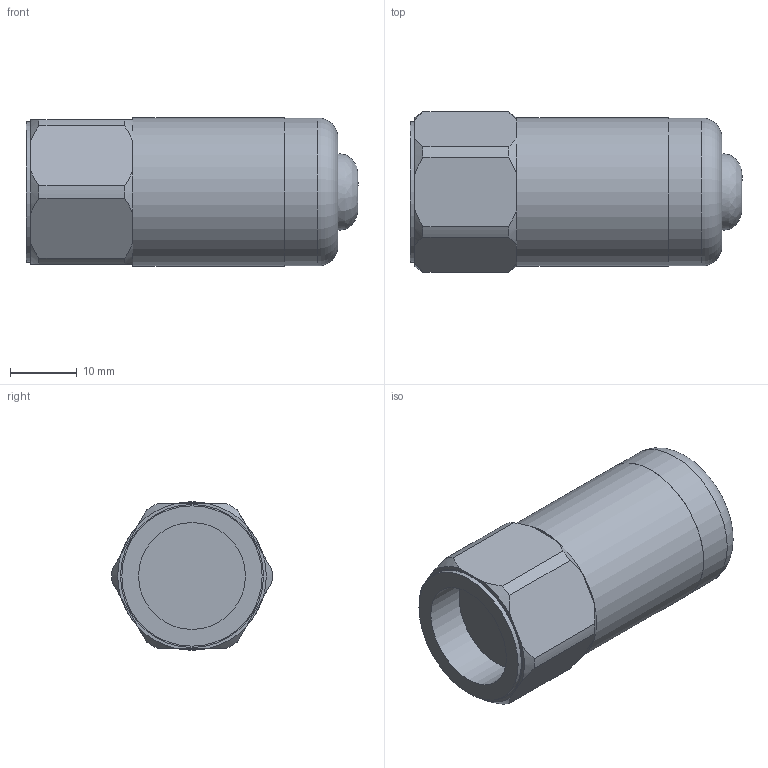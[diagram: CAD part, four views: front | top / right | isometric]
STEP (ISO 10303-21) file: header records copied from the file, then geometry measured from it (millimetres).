
FILE_DESCRIPTION(/* description */ (''),/* implementation_level */ '2;1');
FILE_NAME(/* name */ 'Z:\Engineering\Drawings\3D Library\Assemblies\Website\Premium Top\HS-150 Top Braided Cable\HS-150XXX0205.stp',/* time_stamp */ '2023-02-27T22:07:34+00:00',/* author */ ('Ricardo.Peneda'),/* organization */ (''),/* preprocessor_version */ 'ST-DEVELOPER v18.1',/* originating_system */ 'Autodesk Inventor 2021',/* authorisation */ '');
FILE_SCHEMA (('AUTOMOTIVE_DESIGN { 1 0 10303 214 3 1 1 }'));
Length unit declared in the file: inch
Products named in the file (1): HS-150XXX0205_Shrinkwrap_1
Bounding box: 49.7 x 23.99 x 22.2 mm (x, y, z)
Volume: 10918.7 mm3; surface area: 6905.1 mm2
Topology: 2 solids, 2 shells, 53 faces, 142 edges, 102 vertices
Faces by surface type: plane 25, cylinder 16, cone 10, torus 1, bspline 1
Full cylindrical faces by diameter (mm): 4.2 x1, 13.941 x1, 15.055 x1, 16 x1, 17.941 x1, 19.891 x1, 20 x1, 21 x1, 22.141 x1, 22.2 x1
Entity records: 1829 total; most frequent: CARTESIAN_POINT 372, DIRECTION 304, ORIENTED_EDGE 284, EDGE_CURVE 142, AXIS2_PLACEMENT_3D 133, VERTEX_POINT 102, CIRCLE 80, EDGE_LOOP 64
